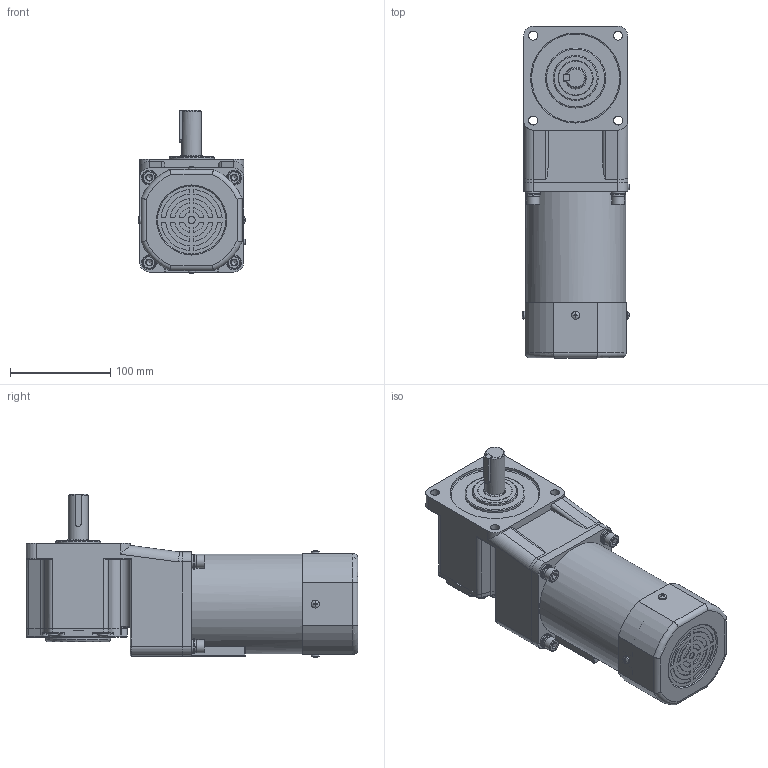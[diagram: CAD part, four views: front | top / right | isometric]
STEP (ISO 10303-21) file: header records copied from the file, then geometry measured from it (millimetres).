
FILE_DESCRIPTION(/* description */ (''),/* implementation_level */ '2;1');
FILE_NAME(/* name */ '100+直角中实-调速风叶-140W.stp',/* time_stamp */ '2022-11-01T13:49:38+08:00',/* author */ (''),/* organization */ (''),/* preprocessor_version */ 'ST-DEVELOPER v16.7',/* originating_system */ 'SIEMENS PLM Software NX 1899',/* authorisation */ '');
FILE_SCHEMA (('AP203_CONFIGURATION_CONTROLLED_3D_DESIGN_OF_MECHANICAL_PARTS_AND_ASSEMBLIES_MIM_LF { 1 0 10303 403 2 1 2}'));
Length unit declared in the file: millimetre
Products named in the file (1): yf1854BC0762nk8p
Bounding box: 107.87 x 331.5 x 163.03 mm (x, y, z)
Volume: 2930691.8 mm3; surface area: 214851.6 mm2
Topology: 16 solids, 16 shells, 740 faces, 1752 edges, 1097 vertices
Faces by surface type: plane 418, cylinder 216, torus 54, cone 43, bspline 5, sphere 4
Full cylindrical faces by diameter (mm): 5.6 x1, 6 x8, 6.8 x4, 7 x1, 7.76 x4, 8 x4, 8.4 x4, 9 x8, 9.5 x4, 13 x4, 14 x4, 15 x4, 20 x1, 22 x1, 35 x1, 45 x1, 60 x1, 65 x1, 77 x1, 90 x1, 98 x2, 100 x1
Entity records: 22253 total; most frequent: CARTESIAN_POINT 4352, DIRECTION 3538, ORIENTED_EDGE 3196, EDGE_CURVE 1598, AXIS2_PLACEMENT_3D 1351, VERTEX_POINT 1052, EDGE_LOOP 918, LINE 836
